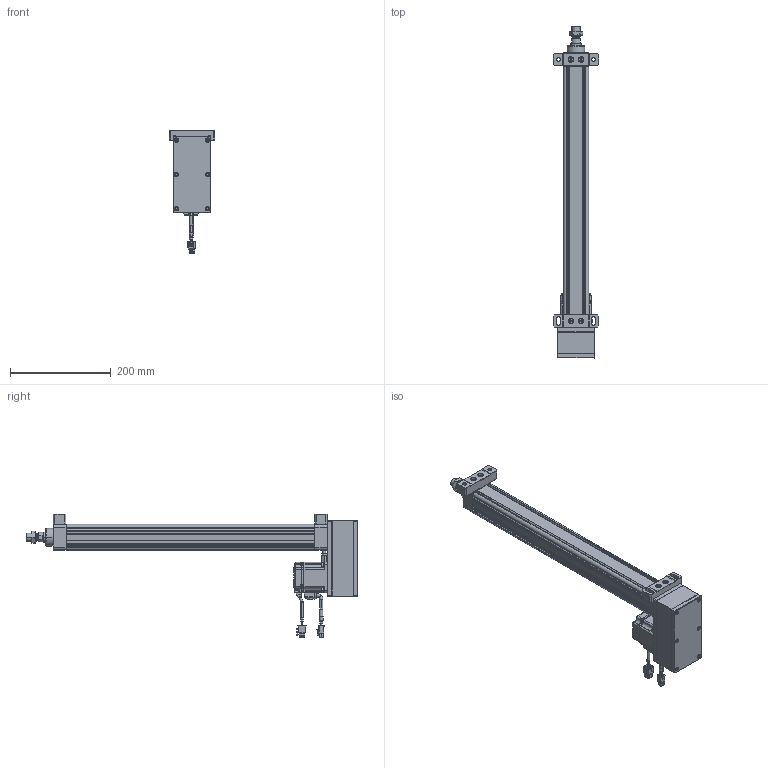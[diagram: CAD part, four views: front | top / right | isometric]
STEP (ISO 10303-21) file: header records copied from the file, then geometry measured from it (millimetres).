
FILE_DESCRIPTION((''),'2;1');
FILE_NAME('HE40-D-100_ASM','2020-05-09T',('ASUS20200'),(''),'CREO PARAMETRIC BY PTC INC, 2014190','CREO PARAMETRIC BY PTC INC, 2014190','');
FILE_SCHEMA(('CONFIG_CONTROL_DESIGN'));
Products named in the file (36): HE40-D-P-001-X1; HE40-D-P-002-X1; HE40-D-P-003-X1; 6200ZZ; SLM-01; YZ-M6X1; JDB202820; HE40-P-010-X1-200W; _MHMF022L1A2; _CABLE_MOTOR_BOTTOM_03; _CABLE_MOTOR_TOP_03; _MOTOR_CONNECTOR_2; _CABLE_BRAKE_BOTTOM_03; _CABLE_BRAKE_TOP_03; _MHMF_CONNECTOR_9_PIN_A6; MHMF022L1A2M2_1_ASM; MHMF022L1A2M2_ASM; JX5X5X20; TD-5; M5X20; LM-M6X1; M6X25; LM-M6-15; M6; HE40-P-012-X2; HE40-P-014-X1; M4X65; HE40-P-015-X1; JX4X4X10; HE40-P-016-X1; M6X20; HE40-D-P-005-X1; HE40-D-P-004-X1; HE40-D-P-008-X1; LGLM-M6-22; HE40-D-100_ASM
Assembly tree (56 placements, depth 4):
  HE40-D-100_ASM
    HE40-D-P-001-X1
    HE40-D-P-002-X1
    HE40-D-P-003-X1
    6200ZZ
    SLM-01
    YZ-M6X1
    JDB202820
    HE40-P-010-X1-200W
    MHMF022L1A2M2_ASM
      MHMF022L1A2M2_1_ASM
        _MHMF022L1A2
        _CABLE_MOTOR_BOTTOM_03
        _CABLE_MOTOR_TOP_03
        _MOTOR_CONNECTOR_2
        _CABLE_BRAKE_BOTTOM_03
        _CABLE_BRAKE_TOP_03
        _MHMF_CONNECTOR_9_PIN_A6
    JX5X5X20
    TD-5  x4
    M5X20  x4
    LM-M6X1  x4
    M6X25
    LM-M6-15
    M6
    HE40-P-012-X2
    HE40-P-014-X1
    M4X65  x6
    HE40-P-015-X1
    JX4X4X10  x2
    HE40-P-016-X1
    M6X20  x4
    HE40-D-P-005-X1
    HE40-D-P-004-X1
    HE40-D-P-008-X1
    LGLM-M6-22  x4
Bounding box: 90 x 657.5 x 244.7 mm (x, y, z)
Volume: 1262444.3 mm3; surface area: 477647.6 mm2
Topology: 54 solids, 85 shells, 3157 faces, 7517 edges, 4617 vertices
Faces by surface type: plane 1380, cylinder 837, cone 746, torus 158, sphere 34, bspline 2
Entity records: 80250 total; most frequent: CARTESIAN_POINT 15052, DIRECTION 14255, ORIENTED_EDGE 12798, EDGE_CURVE 6455, AXIS2_PLACEMENT_3D 5278, VERTEX_POINT 4003, VECTOR 3699, LINE 3699
